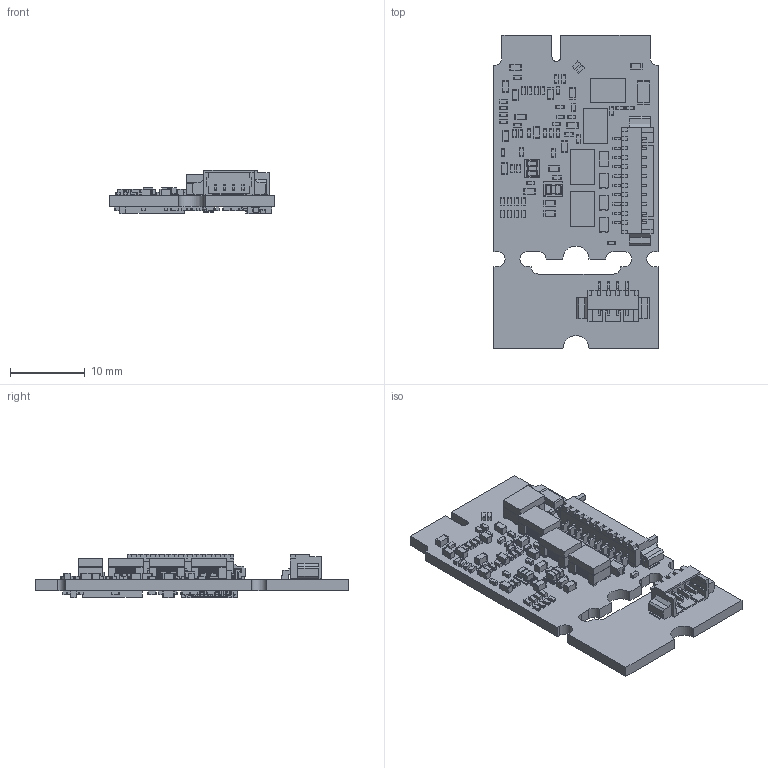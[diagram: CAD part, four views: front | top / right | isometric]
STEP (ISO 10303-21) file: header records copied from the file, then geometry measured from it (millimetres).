
FILE_DESCRIPTION(('Open CASCADE Model'),'2;1');
FILE_NAME('Open CASCADE Shape Model','2024-12-11T17:55:45',('Author'),( 'Open CASCADE'),'Open CASCADE STEP processor 7.5','Open CASCADE 7.5' ,'Unknown');
FILE_SCHEMA(('AUTOMOTIVE_DESIGN { 1 0 10303 214 1 1 1 1 }'));
Length unit declared in the file: millimetre
Products named in the file (225): PCB; Board; Open CASCADE STEP translator 7.5 2.1.1; R23; 6987509712; Extruded; 6987509552; C60; 6987508592; C59; C58; C38; 6987508752; 6987509152; R22; R21; 6987509312; C21; 6987507072; 6987506832; C26; 6987506672; 6987506432; C23; U1; SIL0010D; SOLDERMASK-BTM-SIL0010D; SUBSTRATE-SIP; SOLDERMASK-TOP; LAYER2; Open CASCADE STEP translator 7.5 2.12.1.4.1; Open CASCADE STEP translator 7.5 2.12.1.4.2; Open CASCADE STEP translator 7.5 2.12.1.4.3; Open CASCADE STEP translator 7.5 2.12.1.4.4; Open CASCADE STEP translator 7.5 2.12.1.4.5; Open CASCADE STEP translator 7.5 2.12.1.4.6; Open CASCADE STEP translator 7.5 2.12.1.4.7; LAYER1; Open CASCADE STEP translator 7.5 2.12.1.5.1; Open CASCADE STEP translator 7.5 2.12.1.5.2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
Assembly tree (536 placements, depth 5):
  PCB
    Board
      Open CASCADE STEP translator 7.5 2.1.1
    R23
      6987509712
        Extruded
      6987509552  x2
        Extruded
    C60
      6987508592
        Extruded
      6987509552  x2
        Extruded
    C59
      6987508592
        Extruded
      6987509552  x2
        Extruded
    C58
      6987508592
        Extruded
      6987509552  x2
        Extruded
    C38
      6987508752
        Extruded
      6987509152  x2
        Extruded
    R22
      6987509712
        Extruded
      6987509552  x2
        Extruded
    R21
      6987509312
        Extruded
      6987509152  x2
        Extruded
    C21
      6987507072  x2
        Extruded
      6987506832
        Extruded
    C26
      6987506672  x2
        Extruded
      6987506432
        Extruded
    C23
      6987508592
        Extruded
      6987509552  x2
        Extruded
    U1
      SIL0010D
        SOLDERMASK-BTM-SIL0010D
        SUBSTRATE-SIP
        SOLDERMASK-TOP
        LAYER2
          Open CASCADE STEP translator 7.5 2.12.1.4.1
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Bounding box: 22 x 42 x 5.77 mm (x, y, z)
Volume: 1716.1 mm3; surface area: 4637.5 mm2
Topology: 565 solids, 565 shells, 8573 faces, 19552 edges, 12074 vertices
Faces by surface type: plane 5312, cylinder 1789, bspline 792, torus 648, sphere 32
Full cylindrical faces by diameter (mm): 0.042 x1288
Entity records: 124409 total; most frequent: CARTESIAN_POINT 26280, ORIENTED_EDGE 16928, DIRECTION 15896, EDGE_CURVE 8464, LINE 6256, VECTOR 6256, VERTEX_POINT 5351, AXIS2_PLACEMENT_3D 4820
